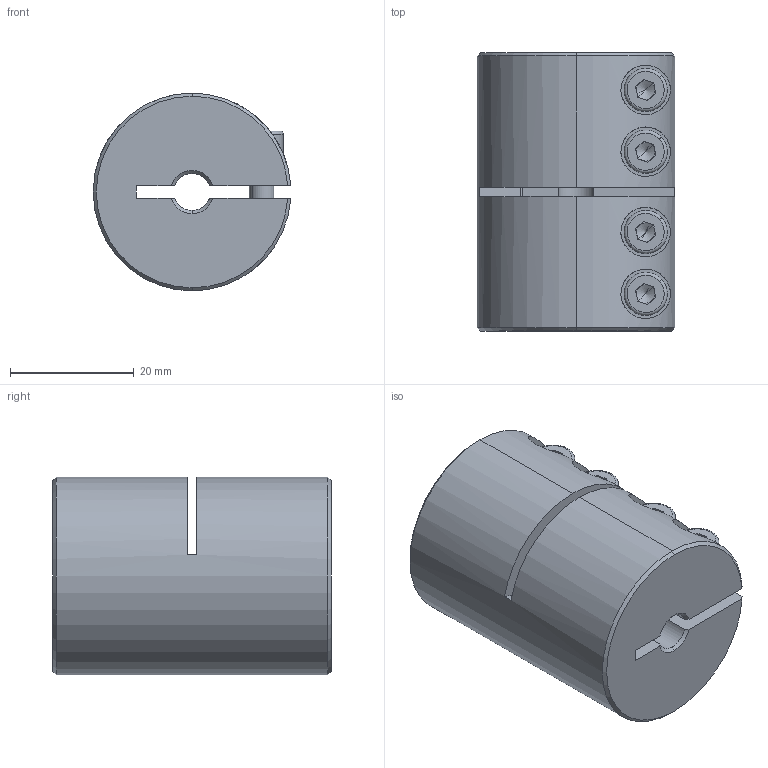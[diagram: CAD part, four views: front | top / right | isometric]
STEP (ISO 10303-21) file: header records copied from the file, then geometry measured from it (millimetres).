
FILE_DESCRIPTION (( 'STEP AP214' ), '1' );
FILE_NAME ('LL-B-D32L45-6-6½¨Ä£.STEP', '2022-07-21T06:41:53', ( '' ), ( '' ), 'SwSTEP 2.0', 'SolidWorks 2022', '' );
FILE_SCHEMA (( 'AUTOMOTIVE_DESIGN' ));
Length unit declared in the file: millimetre
Products named in the file (1): LL-B-D32L45-6-6膘耀
Bounding box: 31.97 x 45 x 32 mm (x, y, z)
Volume: 31936.7 mm3; surface area: 10690.7 mm2
Topology: 1 solids, 1 shells, 188 faces, 477 edges, 299 vertices
Faces by surface type: plane 86, cylinder 74, cone 20, torus 8
Entity records: 6186 total; most frequent: CARTESIAN_POINT 1553, DIRECTION 1006, ORIENTED_EDGE 938, EDGE_CURVE 469, AXIS2_PLACEMENT_3D 392, VERTEX_POINT 299, LINE 222, VECTOR 222
